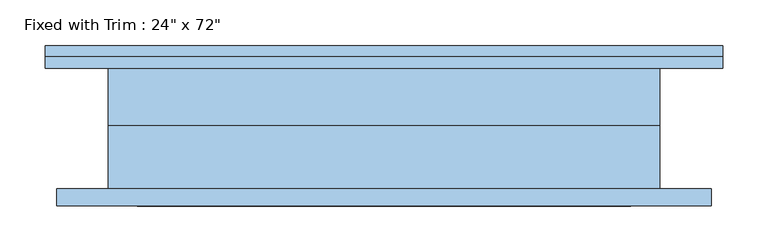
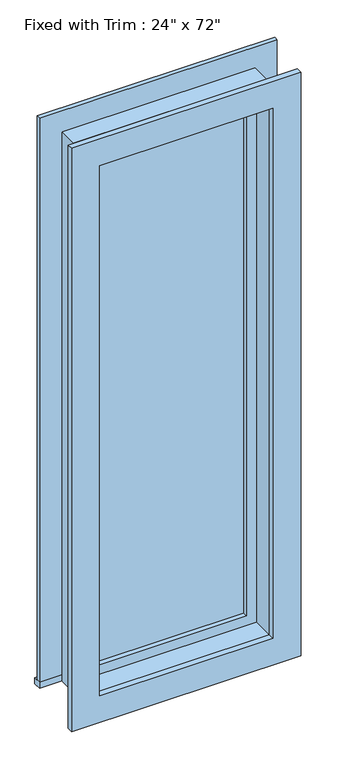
"""IFC4 building model written with IfcOpenShell, lengths in millimetres: window geometry."""

import ifcopenshell
import ifcopenshell.guid

model = None  # the IFC model being written
_history = None  # IfcOwnerHistory: only IFC2X3 demands one
_inside = {}  # id of a spatial element -> (the spatial element, [elements in it])
_under = {}  # id of a project, library or spatial element -> (it, [spatial elements below it])
_declared = {}  # id of a project -> (the project, [libraries it declares])
_typed = {}  # id of a type object -> (the type object, [elements of that type])
_made_of = {}  # id of a material, layer set ... -> (it, [elements and type objects made of it])


def new_model(schema):
    """Start an empty IFC model of exactly this schema.

    Asked for "IFC4X3", IfcOpenShell would pick the latest addendum, in which some entities
    have other attributes; the version numbers below select the first issue.
    IFC2X3 requires an IfcOwnerHistory on every rooted entity: one is made here for all.
    """
    global model, _history
    if schema == "IFC4X3":
        model = ifcopenshell.file(schema_version=(4, 3, 0, 0))
    else:
        model = ifcopenshell.file(schema=schema)
    _inside.clear()
    _under.clear()
    _declared.clear()
    _typed.clear()
    _made_of.clear()
    _history = None
    if model.schema == "IFC2X3":
        org = make("IfcOrganization", Name="unknown")
        user = make(
            "IfcPersonAndOrganization",
            ThePerson=make("IfcPerson", FamilyName="unknown"),
            TheOrganization=org,
        )
        app = make(
            "IfcApplication",
            ApplicationDeveloper=org,
            Version="unknown",
            ApplicationFullName="unknown",
            ApplicationIdentifier="unknown",
        )
        _history = make(
            "IfcOwnerHistory",
            OwningUser=user,
            OwningApplication=app,
            ChangeAction="ADDED",
            CreationDate=0,
        )
    return model


def make(cls, **values):
    """One entity of the class cls with the attributes given. An attribute that is None is left unset."""
    return model.create_entity(
        cls, **{name: value for name, value in values.items() if value is not None}
    )


def rooted(cls, **values):
    """An entity with a GlobalId (a new one), such as an element, a storey or a relation."""
    return make(cls, GlobalId=ifcopenshell.guid.new(), OwnerHistory=_history, **values)


def si_unit(unit_type, name, prefix=None):
    """IfcSIUnit, for example si_unit("LENGTHUNIT", "METRE", prefix="MILLI")."""
    return make("IfcSIUnit", UnitType=unit_type, Prefix=prefix, Name=name)


def assignment(units):
    """IfcUnitAssignment: the units of a project."""
    return None if units is None else make("IfcUnitAssignment", Units=units)


def point(xyz):
    """IfcCartesianPoint."""
    return None if xyz is None else make("IfcCartesianPoint", Coordinates=xyz)


def direction(xyz):
    """IfcDirection."""
    return None if xyz is None else make("IfcDirection", DirectionRatios=xyz)


def frame(location, z_axis=None, x_axis=None):
    """IfcAxis2Placement3D, a coordinate frame: its origin and axes. An axis left out is left unset."""
    return make(
        "IfcAxis2Placement3D",
        Location=point(location),
        Axis=direction(z_axis),
        RefDirection=direction(x_axis),
    )


def origin():
    """The frame at (0, 0, 0) with its axes left unset."""
    return frame((0.0, 0.0, 0.0))


def place(relative_to, where):
    """IfcLocalPlacement: puts the frame where relative to a parent placement (None: the world)."""
    return make(
        "IfcLocalPlacement", PlacementRelTo=relative_to, RelativePlacement=where
    )


def context(
    kind, dimensions, precision=None, world=None, true_north=None, identifier=None
):
    """IfcGeometricRepresentationContext, for example the 3D "Model" context."""
    return make(
        "IfcGeometricRepresentationContext",
        ContextIdentifier=identifier,
        ContextType=kind,
        CoordinateSpaceDimension=dimensions,
        Precision=precision,
        WorldCoordinateSystem=world,
        TrueNorth=true_north,
    )


def project(units=None, contexts=None):
    """IfcProject with its units and contexts."""
    return rooted(
        "IfcProject",
        Name="project",
        RepresentationContexts=contexts,
        UnitsInContext=assignment(units),
    )


def spatial(cls, under=None, at=None, **own):
    """A site, building, storey or space (cls), placed at a placement, below another one or the project."""
    s = rooted(cls, ObjectPlacement=at, **own)
    if under is not None:
        _under.setdefault(under.id(), (under, []))[1].append(s)
    return s


def polyline(points):
    """IfcPolyline through the points."""
    return make("IfcPolyline", Points=[point(p) for p in points])


def outline(outer, holes=None, kind="AREA"):
    """IfcArbitraryClosedProfileDef: a profile drawn as a closed curve; with holes, ...WithVoids."""
    if holes is None:
        return make("IfcArbitraryClosedProfileDef", ProfileType=kind, OuterCurve=outer)
    return make(
        "IfcArbitraryProfileDefWithVoids",
        ProfileType=kind,
        OuterCurve=outer,
        InnerCurves=holes,
    )


def extrude(swept, where, along, depth):
    """IfcExtrudedAreaSolid: the profile swept, set in the frame where, extruded along a direction by depth."""
    return make(
        "IfcExtrudedAreaSolid",
        SweptArea=swept,
        Position=where,
        ExtrudedDirection=direction(along),
        Depth=depth,
    )


def shape(context_of_items, identifier, shape_type, items):
    """IfcShapeRepresentation: the items that make up one representation, for example the "Body"."""
    return make(
        "IfcShapeRepresentation",
        ContextOfItems=context_of_items,
        RepresentationIdentifier=identifier,
        RepresentationType=shape_type,
        Items=items,
    )


def source(mapping_origin, context_of_items, identifier, shape_type, items):
    """IfcRepresentationMap: a shape defined once, which mapped items show again and again."""
    return make(
        "IfcRepresentationMap",
        MappingOrigin=mapping_origin,
        MappedRepresentation=shape(context_of_items, identifier, shape_type, items),
    )


def transform(
    local_origin,
    x_axis=None,
    y_axis=None,
    z_axis=None,
    scale=None,
    scale2=None,
    scale3=None,
    uniform=True,
):
    """IfcCartesianTransformationOperator3D, or its non-uniform kind. x_axis, y_axis, z_axis: its Axis1, 2, 3."""
    if uniform:
        return make(
            "IfcCartesianTransformationOperator3D",
            Axis1=direction(x_axis),
            Axis2=direction(y_axis),
            LocalOrigin=point(local_origin),
            Scale=scale,
            Axis3=direction(z_axis),
        )
    return make(
        "IfcCartesianTransformationOperator3DnonUniform",
        Axis1=direction(x_axis),
        Axis2=direction(y_axis),
        LocalOrigin=point(local_origin),
        Scale=scale,
        Axis3=direction(z_axis),
        Scale2=scale2,
        Scale3=scale3,
    )


def mapped(mapping_source, mapping_target):
    """IfcMappedItem: shows the shape of a source again, moved by a transform."""
    return make(
        "IfcMappedItem", MappingSource=mapping_source, MappingTarget=mapping_target
    )


def made_of(thing, what):
    """Note that an element or type object is made of a material, layer set ...; save() writes the relation."""
    if what is not None:
        _made_of.setdefault(what.id(), (what, []))[1].append(thing)
    return thing


def element(
    cls,
    number,
    at=None,
    inside=None,
    cuts=None,
    type_object=None,
    material=None,
    context=None,
    identifier="Body",
    shape_type=None,
    held_by="IfcProductDefinitionShape",
    body=None,
    shapes=None,
    **own,
):
    """One element of the class cls, such as IfcWall. Its Tag is "e" and its number.

    at: its placement. inside: the storey or other place that contains it. cuts: it is an
    opening in that element (IfcRelVoidsElement). A single representation is given by context,
    identifier, shape_type and body (its items); several are given by shapes. held_by: the class
    of the entity that holds the representations. save() writes the other relations.
    """
    e = rooted(cls, Tag="e%d" % number, ObjectPlacement=at, **own)
    if body is not None:
        shapes = [shape(context, identifier, shape_type, body)]
    if shapes is not None:
        e.Representation = make(held_by, Representations=shapes)
    if inside is not None:
        _inside.setdefault(inside.id(), (inside, []))[1].append(e)
    if cuts is not None:
        rooted(
            "IfcRelVoidsElement", RelatingBuildingElement=cuts, RelatedOpeningElement=e
        )
    if type_object is not None:
        _typed.setdefault(type_object.id(), (type_object, []))[1].append(e)
    return made_of(e, material)


def aggregate(whole, parts):
    """IfcRelAggregates: a whole, such as a stair, and the parts it consists of."""
    return rooted("IfcRelAggregates", RelatingObject=whole, RelatedObjects=parts)


def save(model, path):
    """Write the relations noted so far, then the file.

    IfcRelAggregates (storeys below a building ...), IfcRelContainedInSpatialStructure (elements
    in a storey), IfcRelDefinesByType, IfcRelAssociatesMaterial and IfcRelDeclares: one each for
    every whole, place, type object, material and project.
    """
    for whole, parts in _under.values():
        aggregate(whole, parts)
    for where, things in _inside.values():
        rooted(
            "IfcRelContainedInSpatialStructure",
            RelatedElements=things,
            RelatingStructure=where,
        )
    for kind, things in _typed.values():
        rooted("IfcRelDefinesByType", RelatedObjects=things, RelatingType=kind)
    for what, things in _made_of.values():
        rooted("IfcRelAssociatesMaterial", RelatedObjects=things, RelatingMaterial=what)
    for by, libraries in _declared.values():
        rooted("IfcRelDeclares", RelatingContext=by, RelatedDefinitions=libraries)
    model.write(path)


def window_09c4a98c(model_context):
    return source(origin(), model_context, "Body", "SweptSolid", [
        extrude(outline(polyline([(-412.75, 92.075), (336.55, 92.075), (336.55, 66.675), (-412.75, 66.675), (-412.75, 92.075)])), frame((0.0, 0.0, 304.8), z_axis=(0.0, 0.0, 1.0), x_axis=(1.0, 0.0, 0.0)), (0.0, 0.0, 1.0), 19.05),
        extrude(outline(polyline([(2114.55, -323.85), (2114.55, 247.65), (323.85, 247.65), (323.85, 336.55), (2203.45, 336.55), (2203.45, -412.75), (323.85, -412.75), (323.85, -323.85), (2114.55, -323.85)])), frame((0.0, 66.675, 0.0), z_axis=(0.0, 1.0, 0.0), x_axis=(0.0, 0.0, 1.0)), (0.0, 0.0, 1.0), 12.7),
        extrude(outline(polyline([(2190.75, 323.85), (2190.75, -400.05), (247.65, -400.05), (247.65, 323.85), (2190.75, 323.85)]), holes=[polyline([(2101.85, 234.95), (336.55, 234.95), (336.55, -311.15), (2101.85, -311.15), (2101.85, 234.95)])]), frame((0.0, -85.725, 0.0), z_axis=(0.0, 1.0, 0.0), x_axis=(0.0, 0.0, 1.0)), (0.0, 0.0, 1.0), 19.05),
        extrude(outline(polyline([(203.2, 19.05), (-279.4, 19.05), (-279.4, 31.75), (203.2, 31.75), (203.2, 19.05)])), frame((0.0, 0.0, 368.3), z_axis=(0.0, 0.0, 1.0), x_axis=(1.0, 0.0, 0.0)), (0.0, 0.0, 1.0), 1701.8),
        extrude(outline(polyline([(2114.55, -323.85), (323.85, -323.85), (323.85, 247.65), (2114.55, 247.65), (2114.55, -323.85)]), holes=[polyline([(2070.1, -279.4), (2070.1, 203.2), (368.3, 203.2), (368.3, -279.4), (2070.1, -279.4)])]), frame((0.0, 3.175, 0.0), z_axis=(0.0, 1.0, 0.0), x_axis=(0.0, 0.0, 1.0)), (0.0, 0.0, 1.0), 44.45),
        extrude(outline(polyline([(2133.6, -342.9), (304.8, -342.9), (304.8, 266.7), (2133.6, 266.7), (2133.6, -342.9)]), holes=[polyline([(2101.85, -311.15), (2101.85, 234.95), (336.55, 234.95), (336.55, -311.15), (2101.85, -311.15)])]), frame((0.0, -66.675, 0.0), z_axis=(0.0, 1.0, 0.0), x_axis=(0.0, 0.0, 1.0)), (0.0, 0.0, 1.0), 69.85),
        extrude(outline(polyline([(2133.6, 266.7), (2133.6, -342.9), (304.8, -342.9), (304.8, 266.7), (2133.6, 266.7)]), holes=[polyline([(2114.55, 247.65), (323.85, 247.65), (323.85, -323.85), (2114.55, -323.85), (2114.55, 247.65)])]), frame((0.0, 3.175, 0.0), z_axis=(0.0, 1.0, 0.0), x_axis=(0.0, 0.0, 1.0)), (0.0, 0.0, 1.0), 63.5),
    ])


if __name__ == "__main__":
    model = new_model("IFC4")
    model_context = context("Model", 3, world=origin())
    ifc_project = project(units=[si_unit("LENGTHUNIT", "METRE", prefix="MILLI")], contexts=[model_context])
    site = spatial("IfcSite", under=ifc_project)
    building = spatial("IfcBuilding", under=site)
    placement = place(None, origin())
    window_shape = window_09c4a98c(model_context)
    element("IfcWindow", 1, ObjectType="Fixed with Trim : 24\" x 72\"", at=placement, inside=building, context=model_context, shape_type="MappedRepresentation", body=[
        mapped(window_shape, transform((0.0, 0.0, 0.0), x_axis=(1.0, 0.0, 0.0), y_axis=(0.0, 1.0, 0.0), z_axis=(0.0, 0.0, 1.0))),
    ])
    save(model, "model.ifc")
